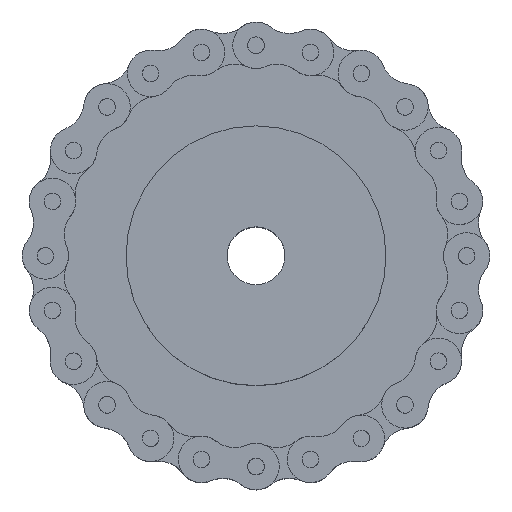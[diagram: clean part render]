
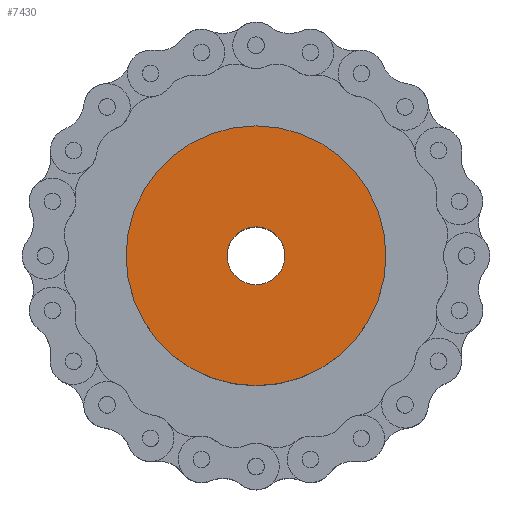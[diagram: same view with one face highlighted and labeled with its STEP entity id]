
A CAD part, top view. The second image highlights one B-rep face of the part: STEP entity #7430.
In plain terms, the highlighted planar face has unit normal (0, 0, 1).
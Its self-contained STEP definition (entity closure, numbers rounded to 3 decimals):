
#2474=CARTESIAN_POINT('',(0.,0.,44.5));
#2475=DIRECTION('',(0.,0.,1.));
#2476=DIRECTION('',(1.,0.,0.));
#2477=AXIS2_PLACEMENT_3D('',#2474,#2475,#2476);
#2479=CARTESIAN_POINT('',(0.,0.,44.5));
#2480=DIRECTION('',(0.,0.,1.));
#2481=DIRECTION('',(-1.,0.,0.));
#2482=AXIS2_PLACEMENT_3D('',#2479,#2480,#2481);
#2484=CARTESIAN_POINT('',(0.,0.,44.5));
#2485=DIRECTION('',(0.,0.,-1.));
#2486=DIRECTION('',(1.,0.,0.));
#2487=AXIS2_PLACEMENT_3D('',#2484,#2485,#2486);
#2489=CARTESIAN_POINT('',(0.,0.,44.5));
#2490=DIRECTION('',(0.,0.,-1.));
#2491=DIRECTION('',(-1.,0.,0.));
#2492=AXIS2_PLACEMENT_3D('',#2489,#2490,#2491);
#2972=CARTESIAN_POINT('',(45.,0.,44.5));
#2974=VERTEX_POINT('',#2972);
#2976=CARTESIAN_POINT('',(-45.,0.,44.5));
#2978=VERTEX_POINT('',#2976);
#2980=CARTESIAN_POINT('',(10.,0.,44.5));
#2982=VERTEX_POINT('',#2980);
#2984=CARTESIAN_POINT('',(-10.,0.,44.5));
#2986=VERTEX_POINT('',#2984);
#7414=CARTESIAN_POINT('',(0.,10.,44.5));
#7415=DIRECTION('',(0.,0.,1.));
#7416=DIRECTION('',(1.,0.,0.));
#7417=AXIS2_PLACEMENT_3D('',#7414,#7415,#7416);
#7418=PLANE('',#7417);
#7420=ORIENTED_EDGE('',*,*,#7419,.F.);
#7421=ORIENTED_EDGE('',*,*,#7397,.F.);
#7422=EDGE_LOOP('',(#7420,#7421));
#7423=FACE_OUTER_BOUND('',#7422,.F.);
#7425=ORIENTED_EDGE('',*,*,#7424,.F.);
#7427=ORIENTED_EDGE('',*,*,#7426,.F.);
#7428=EDGE_LOOP('',(#7425,#7427));
#7429=FACE_BOUND('',#7428,.F.);
#7430=ADVANCED_FACE('',(#7423,#7429),#7418,.T.);
#2478=CIRCLE('',#2477,45.);
#2483=CIRCLE('',#2482,45.);
#2488=CIRCLE('',#2487,10.);
#2493=CIRCLE('',#2492,10.);
#7397=EDGE_CURVE('',#2978,#2974,#2483,.T.);
#7419=EDGE_CURVE('',#2974,#2978,#2478,.T.);
#7424=EDGE_CURVE('',#2982,#2986,#2488,.T.);
#7426=EDGE_CURVE('',#2986,#2982,#2493,.T.);
